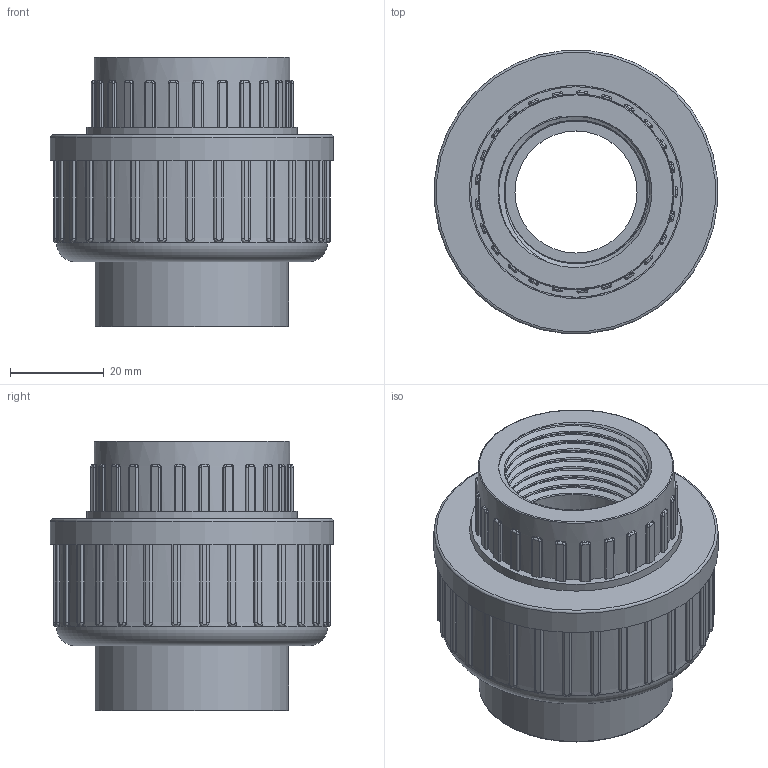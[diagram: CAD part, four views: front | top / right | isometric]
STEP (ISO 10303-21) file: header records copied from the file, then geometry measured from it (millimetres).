
FILE_DESCRIPTION(/* description */ (''),/* implementation_level */ '2;1');
FILE_NAME(/* name */ 'C:\Users\POLYPIPE\Desktop\DATASET INVENTOR\LIBRERIA EFFAST\3D_RACCORDI\RER\3D_RERBOE\3D_RERBOE032D.stp',/* time_stamp */ '2018-01-22T15:56:33+01:00',/* author */ ('POLYPIPE'),/* organization */ (''),/* preprocessor_version */ 'ST-DEVELOPER v16.1',/* originating_system */ 'Autodesk Inventor 2016',/* authorisation */ '');
FILE_SCHEMA (('CONFIG_CONTROL_DESIGN'));
Length unit declared in the file: centimetre
Products named in the file (1): 3D_RERBOE
Bounding box: 60.29 x 60.29 x 57.5 mm (x, y, z)
Volume: 70487.9 mm3; surface area: 29216.4 mm2
Topology: 1 solids, 1 shells, 556 faces, 1436 edges, 892 vertices
Faces by surface type: cylinder 256, plane 204, bspline 90, torus 4, cone 2
Full cylindrical faces by diameter (mm): 26 x1, 28 x1, 30.291 x2, 41.3 x1, 41.7 x1, 42 x1, 44.6 x1, 44.845 x1, 45.4 x1, 60.5 x1
Entity records: 24378 total; most frequent: CARTESIAN_POINT 10499, ORIENTED_EDGE 2832, DIRECTION 2787, EDGE_CURVE 1416, AXIS2_PLACEMENT_3D 1038, VERTEX_POINT 888, LINE 711, VECTOR 711
